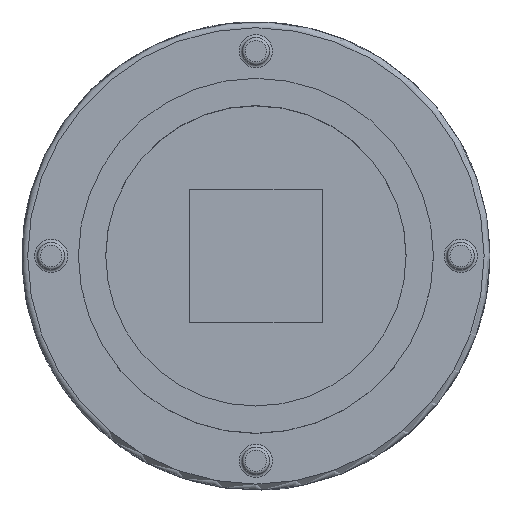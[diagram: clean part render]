
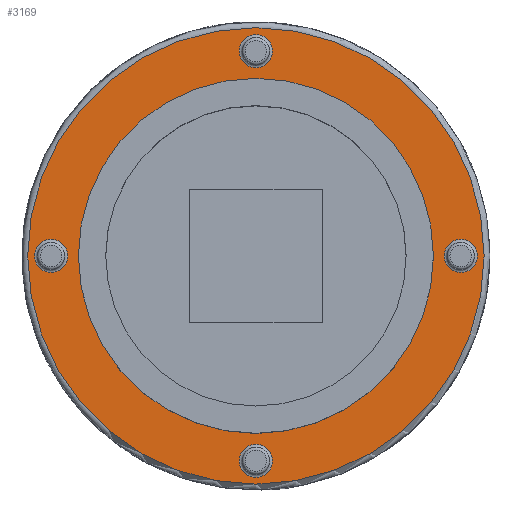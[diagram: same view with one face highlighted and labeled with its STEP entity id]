
A CAD part, top view. The second image highlights one B-rep face of the part: STEP entity #3169.
In plain terms, the highlighted planar face has unit normal (0, 0, 1).
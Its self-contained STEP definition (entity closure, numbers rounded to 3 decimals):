
#271 = VERTEX_POINT ( 'NONE', #1994 ) ;
#279 = DIRECTION ( 'NONE',  ( 0., 0., -1. ) ) ;
#315 = DIRECTION ( 'NONE',  ( 1., 0., 0. ) ) ;
#377 = EDGE_LOOP ( 'NONE', ( #1399 ) ) ;
#571 = AXIS2_PLACEMENT_3D ( 'NONE', #6557, #7210, #6610 ) ;
#705 = EDGE_CURVE ( 'NONE', #1836, #1836, #8610, .T. ) ;
#973 = FACE_BOUND ( 'NONE', #2560, .T. ) ;
#1019 = EDGE_CURVE ( 'NONE', #8871, #8871, #8325, .T. ) ;
#1174 = ORIENTED_EDGE ( 'NONE', *, *, #705, .T. ) ;
#1184 = DIRECTION ( 'NONE',  ( 1., 0., 0. ) ) ;
#1259 = EDGE_CURVE ( 'NONE', #271, #271, #4803, .T. ) ;
#1283 = CARTESIAN_POINT ( 'NONE',  ( 0., 10.5, 1.7 ) ) ;
#1399 = ORIENTED_EDGE ( 'NONE', *, *, #6357, .T. ) ;
#1538 = DIRECTION ( 'NONE',  ( 0., 0., 1. ) ) ;
#1661 = DIRECTION ( 'NONE',  ( 1., 0., 0. ) ) ;
#1836 = VERTEX_POINT ( 'NONE', #5802 ) ;
#1889 = CARTESIAN_POINT ( 'NONE',  ( 11.7, 0., 1.7 ) ) ;
#1938 = CARTESIAN_POINT ( 'NONE',  ( -9.65, 0., 1.7 ) ) ;
#1994 = CARTESIAN_POINT ( 'NONE',  ( 0.85, 10.5, 1.7 ) ) ;
#2031 = CIRCLE ( 'NONE', #571, 0.85 ) ;
#2237 = DIRECTION ( 'NONE',  ( 1., 0., 0. ) ) ;
#2296 = CARTESIAN_POINT ( 'NONE',  ( 0., 0., 1.7 ) ) ;
#2405 = ORIENTED_EDGE ( 'NONE', *, *, #1259, .T. ) ;
#2559 = CARTESIAN_POINT ( 'NONE',  ( -10.5, 0., 1.7 ) ) ;
#2560 = EDGE_LOOP ( 'NONE', ( #1174 ) ) ;
#2599 = PLANE ( 'NONE',  #8522 ) ;
#3082 = EDGE_CURVE ( 'NONE', #3352, #3352, #5636, .T. ) ;
#3121 = DIRECTION ( 'NONE',  ( 0., 0., -1. ) ) ;
#3169 = ADVANCED_FACE ( 'NONE', ( #973, #3348, #9465, #9413, #4045, #3401 ), #2599, .T. ) ;
#3217 = CIRCLE ( 'NONE', #8827, 0.85 ) ;
#3348 = FACE_BOUND ( 'NONE', #6398, .T. ) ;
#3352 = VERTEX_POINT ( 'NONE', #1889 ) ;
#3401 = FACE_BOUND ( 'NONE', #4083, .T. ) ;
#3407 = CARTESIAN_POINT ( 'NONE',  ( 9.1, 0., 1.7 ) ) ;
#3750 = CARTESIAN_POINT ( 'NONE',  ( 0., 0., 1.7 ) ) ;
#4045 = FACE_OUTER_BOUND ( 'NONE', #6530, .T. ) ;
#4083 = EDGE_LOOP ( 'NONE', ( #5583 ) ) ;
#4285 = AXIS2_PLACEMENT_3D ( 'NONE', #7886, #3121, #1661 ) ;
#4348 = DIRECTION ( 'NONE',  ( 0., 0., -1. ) ) ;
#4598 = DIRECTION ( 'NONE',  ( 1., 0., 0. ) ) ;
#4803 = CIRCLE ( 'NONE', #9785, 0.85 ) ;
#5583 = ORIENTED_EDGE ( 'NONE', *, *, #1019, .F. ) ;
#5636 = CIRCLE ( 'NONE', #6916, 11.7 ) ;
#5802 = CARTESIAN_POINT ( 'NONE',  ( 0.85, -10.5, 1.7 ) ) ;
#6357 = EDGE_CURVE ( 'NONE', #8811, #8811, #3217, .T. ) ;
#6398 = EDGE_LOOP ( 'NONE', ( #9470 ) ) ;
#6457 = DIRECTION ( 'NONE',  ( 0., 0., 1. ) ) ;
#6530 = EDGE_LOOP ( 'NONE', ( #8188 ) ) ;
#6557 = CARTESIAN_POINT ( 'NONE',  ( 10.5, 0., 1.7 ) ) ;
#6594 = EDGE_LOOP ( 'NONE', ( #2405 ) ) ;
#6610 = DIRECTION ( 'NONE',  ( 1., 0., 0. ) ) ;
#6798 = CARTESIAN_POINT ( 'NONE',  ( 11.35, 0., 1.7 ) ) ;
#6857 = DIRECTION ( 'NONE',  ( 0., 0., 1. ) ) ;
#6916 = AXIS2_PLACEMENT_3D ( 'NONE', #3750, #6857, #2237 ) ;
#7061 = CARTESIAN_POINT ( 'NONE',  ( 0., 0., 1.7 ) ) ;
#7210 = DIRECTION ( 'NONE',  ( 0., 0., -1. ) ) ;
#7886 = CARTESIAN_POINT ( 'NONE',  ( 0., -10.5, 1.7 ) ) ;
#8188 = ORIENTED_EDGE ( 'NONE', *, *, #3082, .T. ) ;
#8325 = CIRCLE ( 'NONE', #8660, 9.1 ) ;
#8522 = AXIS2_PLACEMENT_3D ( 'NONE', #7061, #6457, #315 ) ;
#8610 = CIRCLE ( 'NONE', #4285, 0.85 ) ;
#8660 = AXIS2_PLACEMENT_3D ( 'NONE', #2296, #1538, #4598 ) ;
#8811 = VERTEX_POINT ( 'NONE', #1938 ) ;
#8827 = AXIS2_PLACEMENT_3D ( 'NONE', #2559, #279, #9377 ) ;
#8871 = VERTEX_POINT ( 'NONE', #3407 ) ;
#9049 = VERTEX_POINT ( 'NONE', #6798 ) ;
#9377 = DIRECTION ( 'NONE',  ( 1., 0., 0. ) ) ;
#9413 = FACE_BOUND ( 'NONE', #377, .T. ) ;
#9465 = FACE_BOUND ( 'NONE', #6594, .T. ) ;
#9470 = ORIENTED_EDGE ( 'NONE', *, *, #9922, .T. ) ;
#9785 = AXIS2_PLACEMENT_3D ( 'NONE', #1283, #4348, #1184 ) ;
#9922 = EDGE_CURVE ( 'NONE', #9049, #9049, #2031, .T. ) ;
